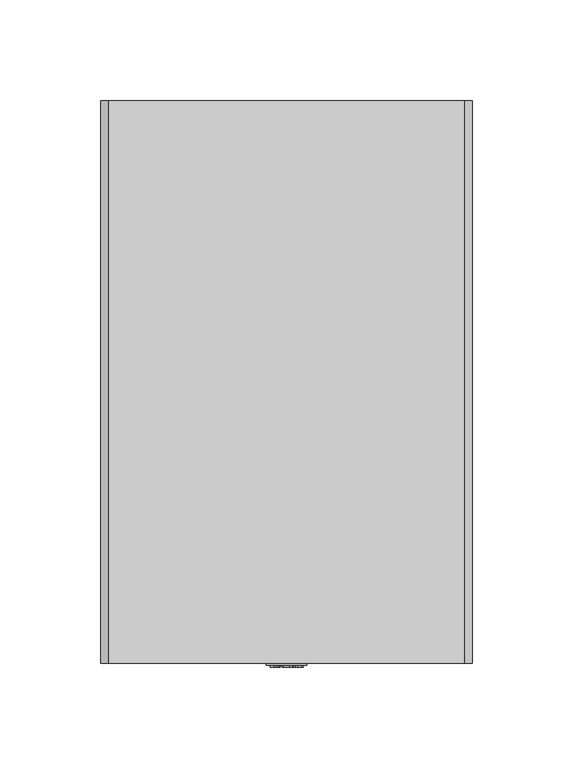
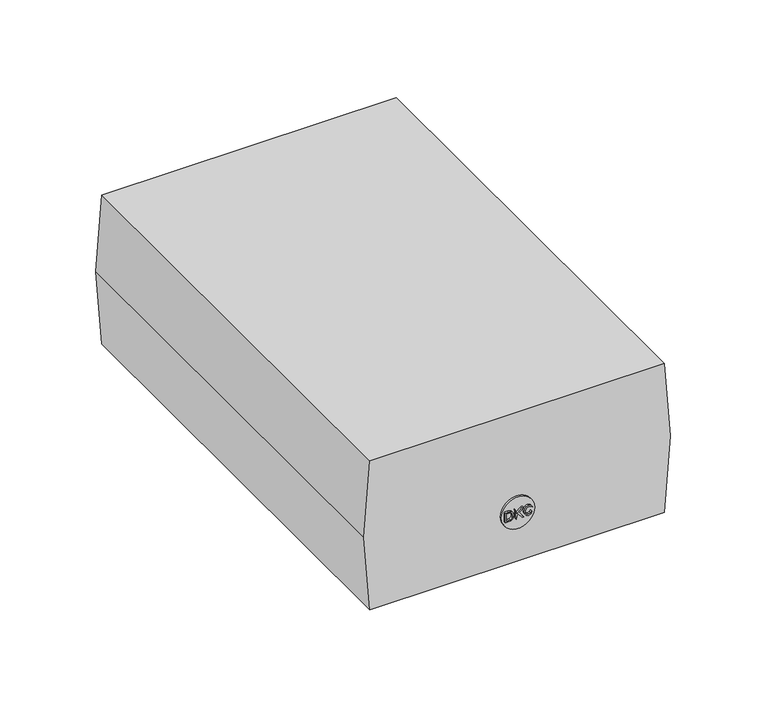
"""IFC4 building model written with IfcOpenShell, lengths in millimetres: proxy geometry, НВО_КНС_ИБПInfo_DKC : INFOPDU600."""

from ifc_helpers import new_model, si_unit, point, frame, frame_2d, origin, place, context, project, spatial, polyline, circle_curve, trimmed, segment, composite_curve, outline, extrude, source, transform, mapped, element, save


def electrical_equipment_41c59be0(model_context):
    return source(origin(), model_context, "Body", "SweptSolid", [
        extrude(outline(polyline([(28.6666667, -8.1463789), (28.6666667, -5.967046), (28.7696736, -4.9980448), (29.6187453, -3.7273804), (30.4965117, -3.3153525), (31.7127296, -3.154956), (33.1459978, -3.391872), (34.1760674, -4.1055631), (34.6072251, -4.9914229), (34.6940453, -6.0671099), (34.6940453, -8.1463789), (28.6666667, -8.1463789)]), holes=[polyline([(29.420089, -7.3929566), (33.9406229, -7.3929566), (33.9406229, -6.0803536), (33.8199577, -5.0120243), (33.151884, -4.2299072), (31.7245018, -3.9083783), (30.5848034, -4.0724537), (29.5289821, -5.0900153), (29.420089, -6.0597522), (29.420089, -7.3929566)])]), frame((0.0, -2.0, 0.0), z_axis=(0.0, 1.0, 0.0), x_axis=(0.0, 0.0, 1.0)), (0.0, 0.0, 1.0), 6.0),
        extrude(outline(polyline([(28.6666667, -1.7422891), (30.7385781, -1.365578), (31.7068435, -0.3502237), (28.6666667, 1.9512461), (28.6666667, 2.8724226), (32.2159922, 0.183941), (34.6940453, 2.7782448), (34.6940453, 1.7246308), (31.7436317, -1.365578), (34.6940453, -2.1190003), (28.6666667, -1.7422891)])), frame((0.0, -2.0, 0.0), z_axis=(0.0, 1.0, 0.0), x_axis=(0.0, 0.0, 1.0)), (0.0, 0.0, 1.0), 6.0),
        extrude(outline(polyline([(30.8092114, 7.6754899), (29.6996793, 7.036111), (29.3259112, 5.8831689), (29.6003512, 4.8435343), (30.4295572, 4.1357294), (31.7274449, 3.9083783), (32.8472777, 4.1004127), (33.7125361, 4.7662791), (34.0348007, 5.944973), (33.744174, 6.9632704), (32.9973735, 8.3347345), (34.3188056, 7.4834555), (34.7882231, 5.9744036), (34.4254914, 4.5264201), (33.363784, 3.5118015), (31.7259733, 3.154956), (30.1146502, 3.4705987), (28.9683299, 4.3903037), (28.5724889, 5.9582168), (29.0956171, 7.5356948), (30.8092114, 7.6754899)])), frame((0.0, -2.0, 0.0), z_axis=(0.0, 1.0, 0.0), x_axis=(0.0, 0.0, 1.0)), (0.0, 0.0, 1.0), 6.0),
        extrude(outline(composite_curve([segment(trimmed(circle_curve(frame_2d((31.6666667, 0.0)), 10.0), [point((31.6666667, -10.0))], [point((31.6666667, 10.0))], False, "CARTESIAN"), True, "CONTINUOUS"), segment(trimmed(circle_curve(frame_2d((31.6666667, 0.0)), 10.0), [point((31.6666667, 10.0))], [point((31.6666667, -10.0))], False, "CARTESIAN"), True, "CONTINUOUS")], self_intersect=False)), frame((0.0, -1.0, 0.0), z_axis=(0.0, 1.0, 0.0), x_axis=(0.0, 0.0, 1.0)), (0.0, 0.0, 1.0), 10.0),
        extrude(outline(polyline([(0.0, -88.7634777), (0.0, 88.7634777), (47.5, 92.5), (95.0, 88.7634777), (95.0, -88.7634777), (47.5, -92.5), (0.0, -88.7634777)])), frame((0.0, 0.0, 0.0), z_axis=(0.0, 1.0, 0.0), x_axis=(0.0, 0.0, 1.0)), (0.0, 0.0, 1.0), 280.0),
    ])


if __name__ == "__main__":
    model = new_model("IFC4")
    model_context = context("Model", 3, world=origin())
    ifc_project = project(units=[si_unit("LENGTHUNIT", "METRE", prefix="MILLI")], contexts=[model_context])
    site = spatial("IfcSite", under=ifc_project)
    building = spatial("IfcBuilding", under=site)
    placement = place(None, origin())
    electrical_equipment_shape = electrical_equipment_41c59be0(model_context)
    element("IfcBuildingElementProxy", 1, Name="НВО_КНС_ИБПInfo_DKC : INFOPDU600", ObjectType="НВО_КНС_ИБПInfo_DKC : INFOPDU600", at=placement, inside=building, context=model_context, shape_type="MappedRepresentation", body=[
        mapped(electrical_equipment_shape, transform((0.0, 0.0, 0.0), x_axis=(1.0, 0.0, 0.0), y_axis=(0.0, 1.0, 0.0), z_axis=(0.0, 0.0, 1.0))),
    ])
    save(model, "model.ifc")
